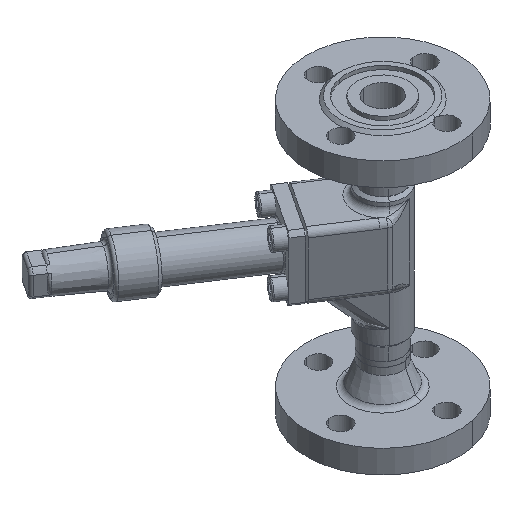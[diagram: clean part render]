
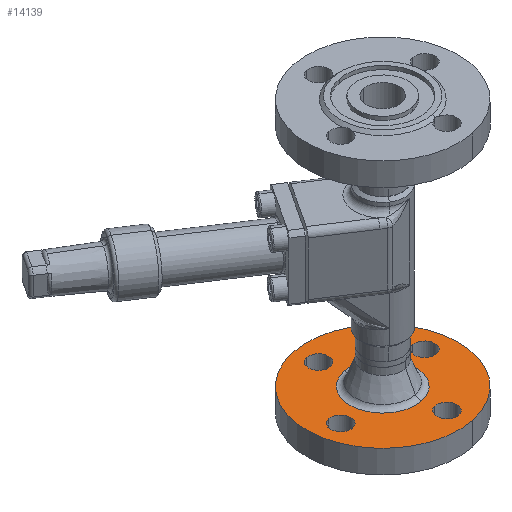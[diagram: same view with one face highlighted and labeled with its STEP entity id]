
A CAD part, isometric view. The second image highlights one B-rep face of the part: STEP entity #14139.
In plain terms, the highlighted planar face has unit normal (0, 0, 1) as drawn and (0, 1, 0) by its records, which use the part's own axes.
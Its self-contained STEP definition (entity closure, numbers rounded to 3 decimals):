
#16432 = ORIENTED_EDGE ( 'NONE', *, *, #10691, .F. ) ;
#16808 = VERTEX_POINT ( 'NONE', #12103 ) ;
#921 = CARTESIAN_POINT ( 'NONE',  ( 7., 18., 37.5 ) ) ;
#17356 = VERTEX_POINT ( 'NONE', #13509 ) ;
#1668 = CARTESIAN_POINT ( 'NONE',  ( 7., 18., -37.5 ) ) ;
#1703 = CIRCLE ( 'NONE', #1704, 7. ) ;
#1704 = AXIS2_PLACEMENT_3D ( 'NONE', #1705, #1706, #1707 ) ;
#1705 = CARTESIAN_POINT ( 'NONE',  ( -37.5, 18., 0. ) ) ;
#1706 = DIRECTION ( 'NONE',  ( 0., 1., 0. ) ) ;
#1707 = DIRECTION ( 'NONE',  ( 1., 0., 0. ) ) ;
#1820 = CIRCLE ( 'NONE', #1821, 7. ) ;
#1821 = AXIS2_PLACEMENT_3D ( 'NONE', #1822, #1823, #1824 ) ;
#1822 = CARTESIAN_POINT ( 'NONE',  ( 37.5, 18., 0. ) ) ;
#1823 = DIRECTION ( 'NONE',  ( 0., 1., 0. ) ) ;
#1824 = DIRECTION ( 'NONE',  ( -1., 0., 0. ) ) ;
#18424 = VERTEX_POINT ( 'NONE', #14010 ) ;
#18485 = CARTESIAN_POINT ( 'NONE',  ( 44.5, 18., 0. ) ) ;
#18627 = EDGE_LOOP ( 'NONE', ( #12075, #11563 ) ) ;
#2629 = CIRCLE ( 'NONE', #2630, 7. ) ;
#2630 = AXIS2_PLACEMENT_3D ( 'NONE', #2631, #2632, #2633 ) ;
#2631 = CARTESIAN_POINT ( 'NONE',  ( 0., 18., -37.5 ) ) ;
#2632 = DIRECTION ( 'NONE',  ( 0., 1., 0. ) ) ;
#2633 = DIRECTION ( 'NONE',  ( 0., 0., 1. ) ) ;
#2662 = VERTEX_POINT ( 'NONE', #1668 ) ;
#2867 = CIRCLE ( 'NONE', #2868, 52.5 ) ;
#2868 = AXIS2_PLACEMENT_3D ( 'NONE', #2869, #2872, #2873 ) ;
#2869 = CARTESIAN_POINT ( 'NONE',  ( 0., 18., 0. ) ) ;
#2872 = DIRECTION ( 'NONE',  ( 0., 1., 0. ) ) ;
#2873 = DIRECTION ( 'NONE',  ( -1., 0., 0. ) ) ;
#20095 = CARTESIAN_POINT ( 'NONE',  ( -7., 18., 37.5 ) ) ;
#20454 = CIRCLE ( 'NONE', #20455, 7. ) ;
#20455 = AXIS2_PLACEMENT_3D ( 'NONE', #20456, #20457, #20458 ) ;
#20456 = CARTESIAN_POINT ( 'NONE',  ( 0., 18., 37.5 ) ) ;
#20457 = DIRECTION ( 'NONE',  ( 0., 1., 0. ) ) ;
#20458 = DIRECTION ( 'NONE',  ( 0., 0., -1. ) ) ;
#20697 = CIRCLE ( 'NONE', #20698, 7. ) ;
#20698 = AXIS2_PLACEMENT_3D ( 'NONE', #20699, #20700, #20701 ) ;
#20699 = CARTESIAN_POINT ( 'NONE',  ( -37.5, 18., 0. ) ) ;
#20700 = DIRECTION ( 'NONE',  ( 0., 1., 0. ) ) ;
#20701 = DIRECTION ( 'NONE',  ( 1., 0., 0. ) ) ;
#4801 = FACE_BOUND ( 'NONE', #13895, .T. ) ;
#4802 = FACE_BOUND ( 'NONE', #12018, .T. ) ;
#4803 = FACE_BOUND ( 'NONE', #10243, .T. ) ;
#4804 = FACE_BOUND ( 'NONE', #15977, .T. ) ;
#4805 = FACE_BOUND ( 'NONE', #18627, .T. ) ;
#4806 = FACE_OUTER_BOUND ( 'NONE', #11319, .T. ) ;
#4807 = PLANE ( 'NONE',  #4808 ) ;
#4808 = AXIS2_PLACEMENT_3D ( 'NONE', #4809, #4810, #4811 ) ;
#4809 = CARTESIAN_POINT ( 'NONE',  ( 52.5, 18., 0. ) ) ;
#4810 = DIRECTION ( 'NONE',  ( 0., -1., 0. ) ) ;
#4811 = DIRECTION ( 'NONE',  ( 1., 0., 0. ) ) ;
#4853 = VERTEX_POINT ( 'NONE', #5087 ) ;
#5002 = EDGE_CURVE ( 'NONE', #14779, #4853, #5168, .T. ) ;
#5087 = CARTESIAN_POINT ( 'NONE',  ( -22.685, 18., 0. ) ) ;
#5168 = CIRCLE ( 'NONE', #5173, 22.685 ) ;
#5173 = AXIS2_PLACEMENT_3D ( 'NONE', #5174, #5175, #5176 ) ;
#5174 = CARTESIAN_POINT ( 'NONE',  ( 0., 18., 0. ) ) ;
#5175 = DIRECTION ( 'NONE',  ( 0., 1., 0. ) ) ;
#5176 = DIRECTION ( 'NONE',  ( -1., 0., 0. ) ) ;
#5330 = CARTESIAN_POINT ( 'NONE',  ( 22.685, 18., 0. ) ) ;
#6198 = VERTEX_POINT ( 'NONE', #11537 ) ;
#6418 = EDGE_CURVE ( 'NONE', #2662, #6198, #11688, .T. ) ;
#7486 = EDGE_CURVE ( 'NONE', #4853, #14779, #13805, .T. ) ;
#7696 = VERTEX_POINT ( 'NONE', #13961 ) ;
#7922 = EDGE_CURVE ( 'NONE', #8820, #7696, #14145, .T. ) ;
#8820 = VERTEX_POINT ( 'NONE', #18485 ) ;
#9156 = CARTESIAN_POINT ( 'NONE',  ( -52.5, 18., 0. ) ) ;
#9545 = EDGE_CURVE ( 'NONE', #10463, #11582, #15918, .T. ) ;
#9708 = ORIENTED_EDGE ( 'NONE', *, *, #9545, .F. ) ;
#10243 = EDGE_LOOP ( 'NONE', ( #9708, #16432 ) ) ;
#10463 = VERTEX_POINT ( 'NONE', #20095 ) ;
#10481 = ORIENTED_EDGE ( 'NONE', *, *, #12206, .F. ) ;
#10691 = EDGE_CURVE ( 'NONE', #11582, #10463, #20454, .T. ) ;
#11001 = EDGE_CURVE ( 'NONE', #17356, #18424, #20697, .T. ) ;
#11319 = EDGE_LOOP ( 'NONE', ( #14061, #13590 ) ) ;
#11357 = CIRCLE ( 'NONE', #11360, 52.5 ) ;
#11360 = AXIS2_PLACEMENT_3D ( 'NONE', #11361, #11362, #11363 ) ;
#11361 = CARTESIAN_POINT ( 'NONE',  ( 0., 18., 0. ) ) ;
#11362 = DIRECTION ( 'NONE',  ( 0., 1., 0. ) ) ;
#11363 = DIRECTION ( 'NONE',  ( -1., 0., 0. ) ) ;
#11376 = ORIENTED_EDGE ( 'NONE', *, *, #11001, .F. ) ;
#11537 = CARTESIAN_POINT ( 'NONE',  ( -7., 18., -37.5 ) ) ;
#11563 = ORIENTED_EDGE ( 'NONE', *, *, #5002, .F. ) ;
#11582 = VERTEX_POINT ( 'NONE', #921 ) ;
#11688 = CIRCLE ( 'NONE', #11689, 7. ) ;
#11689 = AXIS2_PLACEMENT_3D ( 'NONE', #11690, #11691, #11692 ) ;
#11690 = CARTESIAN_POINT ( 'NONE',  ( 0., 18., -37.5 ) ) ;
#11691 = DIRECTION ( 'NONE',  ( 0., 1., 0. ) ) ;
#11692 = DIRECTION ( 'NONE',  ( 0., 0., 1. ) ) ;
#12018 = EDGE_LOOP ( 'NONE', ( #11376, #10481 ) ) ;
#12075 = ORIENTED_EDGE ( 'NONE', *, *, #7486, .F. ) ;
#12103 = CARTESIAN_POINT ( 'NONE',  ( 52.5, 18., 0. ) ) ;
#12206 = EDGE_CURVE ( 'NONE', #18424, #17356, #1703, .T. ) ;
#12392 = EDGE_CURVE ( 'NONE', #7696, #8820, #1820, .T. ) ;
#12508 = ORIENTED_EDGE ( 'NONE', *, *, #6418, .F. ) ;
#13015 = EDGE_CURVE ( 'NONE', #6198, #2662, #2629, .T. ) ;
#13222 = EDGE_CURVE ( 'NONE', #16808, #15268, #2867, .T. ) ;
#13384 = ORIENTED_EDGE ( 'NONE', *, *, #13015, .F. ) ;
#13509 = CARTESIAN_POINT ( 'NONE',  ( -44.5, 18., 0. ) ) ;
#13590 = ORIENTED_EDGE ( 'NONE', *, *, #13222, .T. ) ;
#13805 = CIRCLE ( 'NONE', #13806, 22.685 ) ;
#13806 = AXIS2_PLACEMENT_3D ( 'NONE', #13807, #13808, #13809 ) ;
#13807 = CARTESIAN_POINT ( 'NONE',  ( 0., 18., 0. ) ) ;
#13808 = DIRECTION ( 'NONE',  ( 0., 1., 0. ) ) ;
#13809 = DIRECTION ( 'NONE',  ( -1., 0., 0. ) ) ;
#13895 = EDGE_LOOP ( 'NONE', ( #13384, #12508 ) ) ;
#13961 = CARTESIAN_POINT ( 'NONE',  ( 30.5, 18., 0. ) ) ;
#14010 = CARTESIAN_POINT ( 'NONE',  ( -30.5, 18., 0. ) ) ;
#14061 = ORIENTED_EDGE ( 'NONE', *, *, #15491, .T. ) ;
#14139 = ADVANCED_FACE ( 'NONE', ( #4801, #4802, #4803, #4804, #4805, #4806 ), #4807, .F. ) ;
#14145 = CIRCLE ( 'NONE', #14146, 7. ) ;
#14146 = AXIS2_PLACEMENT_3D ( 'NONE', #14147, #14148, #14149 ) ;
#14147 = CARTESIAN_POINT ( 'NONE',  ( 37.5, 18., 0. ) ) ;
#14148 = DIRECTION ( 'NONE',  ( 0., 1., 0. ) ) ;
#14149 = DIRECTION ( 'NONE',  ( -1., 0., 0. ) ) ;
#14759 = ORIENTED_EDGE ( 'NONE', *, *, #7922, .F. ) ;
#14779 = VERTEX_POINT ( 'NONE', #5330 ) ;
#15268 = VERTEX_POINT ( 'NONE', #9156 ) ;
#15414 = ORIENTED_EDGE ( 'NONE', *, *, #12392, .F. ) ;
#15491 = EDGE_CURVE ( 'NONE', #15268, #16808, #11357, .T. ) ;
#15918 = CIRCLE ( 'NONE', #15919, 7. ) ;
#15919 = AXIS2_PLACEMENT_3D ( 'NONE', #15920, #15921, #15922 ) ;
#15920 = CARTESIAN_POINT ( 'NONE',  ( 0., 18., 37.5 ) ) ;
#15921 = DIRECTION ( 'NONE',  ( 0., 1., 0. ) ) ;
#15922 = DIRECTION ( 'NONE',  ( 0., 0., -1. ) ) ;
#15977 = EDGE_LOOP ( 'NONE', ( #15414, #14759 ) ) ;
